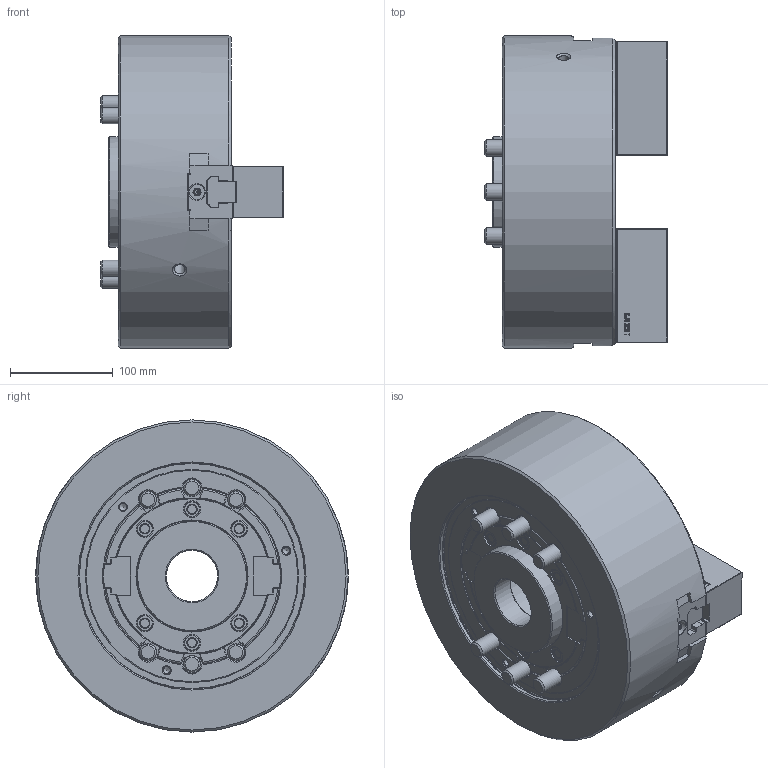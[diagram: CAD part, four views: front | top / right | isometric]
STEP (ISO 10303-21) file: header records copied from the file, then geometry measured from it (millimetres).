
FILE_DESCRIPTION (( 'STEP AP214' ), '1' );
FILE_NAME ('DT1_BT212_OUTSIDE_VIEW_OC.STEP', '2024-05-09T02:30:31', ( '' ), ( '' ), 'SwSTEP 2.0', 'SolidWorks 2022', '' );
FILE_SCHEMA (( 'AUTOMOTIVE_DESIGN' ));
Length unit declared in the file: millimetre
Products named in the file (9): DT1_BT212_M6x10^DT1-BT212_ﾃﾞﾌｫﾙﾄ; DT1_BT212_BASE^DT1-BT212_ﾃﾞﾌｫﾙﾄ; DT1_BT212_OUTSIDE_VIEW_OC; DT1_BT212_M16x40^DT1-BT212_ﾃﾞﾌｫﾙﾄ; DT1_BT212_TNUT^DT1-BT212_ﾃﾞﾌｫﾙﾄ; DT1_BT212_SOFTJAW^DT1-BT212_ﾃﾞﾌｫﾙﾄ; DT1_BT212_COVER^DT1-BT212_ﾃﾞﾌｫﾙﾄ; DT1_BT212_DRAWNUT^DT1-BT212_ﾃﾞﾌｫﾙﾄ; DT1_BT212_M16x110^DT1-BT212_ﾃﾞﾌｫﾙﾄ
Assembly tree (21 placements, depth 2):
  DT1_BT212_OUTSIDE_VIEW_OC
    DT1_BT212_SOFTJAW^DT1-BT212_ﾃﾞﾌｫﾙﾄ  x2
    DT1_BT212_TNUT^DT1-BT212_ﾃﾞﾌｫﾙﾄ  x2
    DT1_BT212_DRAWNUT^DT1-BT212_ﾃﾞﾌｫﾙﾄ
    DT1_BT212_COVER^DT1-BT212_ﾃﾞﾌｫﾙﾄ
    DT1_BT212_BASE^DT1-BT212_ﾃﾞﾌｫﾙﾄ
    DT1_BT212_M6x10^DT1-BT212_ﾃﾞﾌｫﾙﾄ  x4
    DT1_BT212_M16x40^DT1-BT212_ﾃﾞﾌｫﾙﾄ  x4
    DT1_BT212_M16x110^DT1-BT212_ﾃﾞﾌｫﾙﾄ  x6
Bounding box: 178 x 304 x 304 mm (x, y, z)
Volume: 7599530.8 mm3; surface area: 601420.6 mm2
Topology: 21 solids, 21 shells, 3939 faces, 11191 edges, 7384 vertices
Faces by surface type: plane 2609, cylinder 798, cone 272, bspline 213, torus 45, sphere 2
Full cylindrical faces by diameter (mm): 2 x2, 5 x4, 6 x4, 6.6 x4, 6.8 x3, 10.2 x2, 10.5 x4, 11 x4, 14 x4, 15 x2, 16 x10, 17 x16, 24.33 x10, 25 x10, 50 x1, 91 x2, 96 x2, 101 x1, 108 x2, 220 x1, 220.8 x1, 304 x1
Entity records: 104845 total; most frequent: CARTESIAN_POINT 31081, ORIENTED_EDGE 16730, DIRECTION 13020, EDGE_CURVE 8365, VECTOR 5878, LINE 5878, VERTEX_POINT 5601, AXIS2_PLACEMENT_3D 3571
